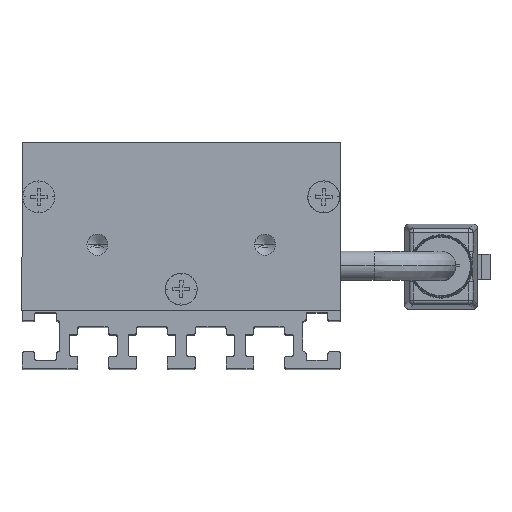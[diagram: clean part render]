
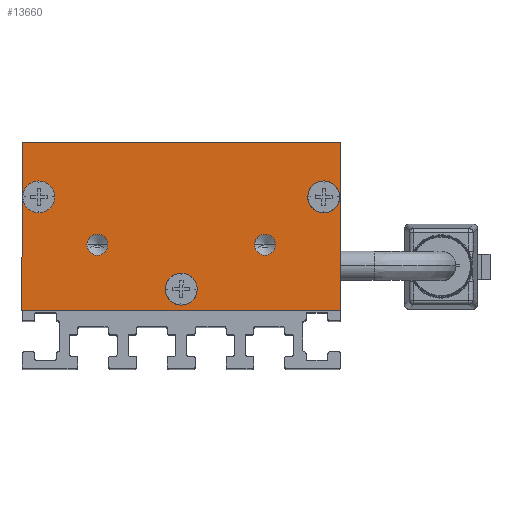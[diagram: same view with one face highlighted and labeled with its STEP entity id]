
A CAD part, top view. The second image highlights one B-rep face of the part: STEP entity #13660.
In plain terms, the highlighted planar face has unit normal (0, 0, 1) as drawn and (0, 0, -1) by its records, which use the part's own axes.
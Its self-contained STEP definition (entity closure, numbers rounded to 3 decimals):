
#139 = CIRCLE ( 'NONE', #4860, 1.25 ) ;
#245 = EDGE_CURVE ( 'NONE', #15904, #614, #9876, .T. ) ;
#333 = CARTESIAN_POINT ( 'NONE',  ( 15.1, 13.5, -2.5 ) ) ;
#481 = AXIS2_PLACEMENT_3D ( 'NONE', #4285, #4477, #10247 ) ;
#509 = FACE_BOUND ( 'NONE', #14867, .T. ) ;
#614 = VERTEX_POINT ( 'NONE', #14649 ) ;
#643 = EDGE_CURVE ( 'NONE', #12553, #6620, #1573, .T. ) ;
#924 = AXIS2_PLACEMENT_3D ( 'NONE', #11146, #18577, #18678 ) ;
#960 = DIRECTION ( 'NONE',  ( 0., 0., -1. ) ) ;
#1046 = ORIENTED_EDGE ( 'NONE', *, *, #2632, .F. ) ;
#1243 = VERTEX_POINT ( 'NONE', #15943 ) ;
#1346 = CARTESIAN_POINT ( 'NONE',  ( -18.9, 13.5, -2.5 ) ) ;
#1434 = DIRECTION ( 'NONE',  ( 0., 0., -1. ) ) ;
#1450 = LINE ( 'NONE', #19371, #11894 ) ;
#1470 = VERTEX_POINT ( 'NONE', #5738 ) ;
#1573 = LINE ( 'NONE', #5195, #8626 ) ;
#2161 = ORIENTED_EDGE ( 'NONE', *, *, #16526, .F. ) ;
#2246 = EDGE_LOOP ( 'NONE', ( #3820, #4245 ) ) ;
#2278 = VECTOR ( 'NONE', #13888, 1000. ) ;
#2371 = CARTESIAN_POINT ( 'NONE',  ( 17., 13.5, -2.5 ) ) ;
#2632 = EDGE_CURVE ( 'NONE', #18636, #1470, #139, .T. ) ;
#2874 = EDGE_CURVE ( 'NONE', #1470, #18636, #14009, .T. ) ;
#2895 = AXIS2_PLACEMENT_3D ( 'NONE', #11451, #960, #12924 ) ;
#2981 = CARTESIAN_POINT ( 'NONE',  ( 10., 7.8, -2.5 ) ) ;
#3135 = VERTEX_POINT ( 'NONE', #12479 ) ;
#3229 = CIRCLE ( 'NONE', #13864, 1.9 ) ;
#3280 = DIRECTION ( 'NONE',  ( 0., 0., -1. ) ) ;
#3376 = FACE_BOUND ( 'NONE', #14679, .T. ) ;
#3549 = DIRECTION ( 'NONE',  ( 0., -1., 0. ) ) ;
#3677 = CARTESIAN_POINT ( 'NONE',  ( 19., 0., -2.5 ) ) ;
#3820 = ORIENTED_EDGE ( 'NONE', *, *, #17819, .F. ) ;
#3922 = DIRECTION ( 'NONE',  ( 0., 0., -1. ) ) ;
#3987 = VERTEX_POINT ( 'NONE', #4989 ) ;
#4037 = DIRECTION ( 'NONE',  ( -1., 0., 0. ) ) ;
#4125 = VERTEX_POINT ( 'NONE', #333 ) ;
#4221 = VECTOR ( 'NONE', #6492, 1000. ) ;
#4245 = ORIENTED_EDGE ( 'NONE', *, *, #18942, .F. ) ;
#4285 = CARTESIAN_POINT ( 'NONE',  ( -17., 13.5, -2.5 ) ) ;
#4477 = DIRECTION ( 'NONE',  ( 0., 0., -1. ) ) ;
#4860 = AXIS2_PLACEMENT_3D ( 'NONE', #14265, #5340, #11326 ) ;
#4989 = CARTESIAN_POINT ( 'NONE',  ( 1.9, 2.5, -2.5 ) ) ;
#5176 = ORIENTED_EDGE ( 'NONE', *, *, #2874, .F. ) ;
#5195 = CARTESIAN_POINT ( 'NONE',  ( -19., 20., -2.5 ) ) ;
#5340 = DIRECTION ( 'NONE',  ( 0., 0., -1. ) ) ;
#5360 = EDGE_CURVE ( 'NONE', #17085, #3987, #3229, .T. ) ;
#5478 = CIRCLE ( 'NONE', #16423, 1.25 ) ;
#5492 = AXIS2_PLACEMENT_3D ( 'NONE', #18151, #15412, #16783 ) ;
#5599 = AXIS2_PLACEMENT_3D ( 'NONE', #6299, #12281, #17066 ) ;
#5662 = CIRCLE ( 'NONE', #18499, 1.9 ) ;
#5698 = CIRCLE ( 'NONE', #2895, 1.9 ) ;
#5738 = CARTESIAN_POINT ( 'NONE',  ( 8.75, 7.8, -2.5 ) ) ;
#5827 = DIRECTION ( 'NONE',  ( 0., 0., -1. ) ) ;
#6299 = CARTESIAN_POINT ( 'NONE',  ( 0., 2.5, -2.5 ) ) ;
#6383 = AXIS2_PLACEMENT_3D ( 'NONE', #9792, #3922, #18897 ) ;
#6492 = DIRECTION ( 'NONE',  ( 1., 0., 0. ) ) ;
#6620 = VERTEX_POINT ( 'NONE', #12325 ) ;
#6731 = CARTESIAN_POINT ( 'NONE',  ( 19., 20., -2.5 ) ) ;
#7515 = DIRECTION ( 'NONE',  ( -1., 0., 0. ) ) ;
#7613 = CARTESIAN_POINT ( 'NONE',  ( -19., 20., -2.5 ) ) ;
#7878 = PLANE ( 'NONE',  #5492 ) ;
#7962 = CARTESIAN_POINT ( 'NONE',  ( -19., 20., -2.5 ) ) ;
#8072 = ORIENTED_EDGE ( 'NONE', *, *, #14429, .F. ) ;
#8626 = VECTOR ( 'NONE', #3549, 1000. ) ;
#8898 = DIRECTION ( 'NONE',  ( 0., 1., 0. ) ) ;
#8994 = ORIENTED_EDGE ( 'NONE', *, *, #12599, .F. ) ;
#9432 = ORIENTED_EDGE ( 'NONE', *, *, #5360, .F. ) ;
#9502 = EDGE_LOOP ( 'NONE', ( #5176, #1046 ) ) ;
#9792 = CARTESIAN_POINT ( 'NONE',  ( -17., 13.5, -2.5 ) ) ;
#9876 = CIRCLE ( 'NONE', #481, 1.9 ) ;
#9988 = ORIENTED_EDGE ( 'NONE', *, *, #13097, .F. ) ;
#10119 = EDGE_CURVE ( 'NONE', #3987, #17085, #13736, .T. ) ;
#10188 = CARTESIAN_POINT ( 'NONE',  ( 11.25, 7.8, -2.5 ) ) ;
#10245 = CARTESIAN_POINT ( 'NONE',  ( -10., 7.8, -2.5 ) ) ;
#10247 = DIRECTION ( 'NONE',  ( -1., 0., 0. ) ) ;
#10646 = CARTESIAN_POINT ( 'NONE',  ( -1.9, 2.5, -2.5 ) ) ;
#10845 = VERTEX_POINT ( 'NONE', #3677 ) ;
#11146 = CARTESIAN_POINT ( 'NONE',  ( -10., 7.8, -2.5 ) ) ;
#11261 = CIRCLE ( 'NONE', #924, 1.25 ) ;
#11308 = EDGE_CURVE ( 'NONE', #614, #15904, #14825, .T. ) ;
#11326 = DIRECTION ( 'NONE',  ( -1., 0., 0. ) ) ;
#11451 = CARTESIAN_POINT ( 'NONE',  ( 17., 13.5, -2.5 ) ) ;
#11883 = ORIENTED_EDGE ( 'NONE', *, *, #10119, .F. ) ;
#11894 = VECTOR ( 'NONE', #8898, 1000. ) ;
#11998 = EDGE_LOOP ( 'NONE', ( #14458, #13014, #2161, #8994 ) ) ;
#12281 = DIRECTION ( 'NONE',  ( 0., 0., -1. ) ) ;
#12325 = CARTESIAN_POINT ( 'NONE',  ( -19., 0., -2.5 ) ) ;
#12479 = CARTESIAN_POINT ( 'NONE',  ( -11.25, 7.8, -2.5 ) ) ;
#12553 = VERTEX_POINT ( 'NONE', #7962 ) ;
#12599 = EDGE_CURVE ( 'NONE', #6620, #10845, #12861, .T. ) ;
#12861 = LINE ( 'NONE', #15501, #4221 ) ;
#12924 = DIRECTION ( 'NONE',  ( -1., 0., 0. ) ) ;
#13014 = ORIENTED_EDGE ( 'NONE', *, *, #19109, .F. ) ;
#13097 = EDGE_CURVE ( 'NONE', #1243, #3135, #5478, .T. ) ;
#13660 = ADVANCED_FACE ( 'NONE', ( #13752, #15313, #509, #18245, #3376, #13854 ), #7878, .F. ) ;
#13736 = CIRCLE ( 'NONE', #5599, 1.9 ) ;
#13752 = FACE_BOUND ( 'NONE', #2246, .T. ) ;
#13753 = DIRECTION ( 'NONE',  ( -1., 0., 0. ) ) ;
#13854 = FACE_OUTER_BOUND ( 'NONE', #11998, .T. ) ;
#13864 = AXIS2_PLACEMENT_3D ( 'NONE', #14870, #1434, #7515 ) ;
#13888 = DIRECTION ( 'NONE',  ( -1., 0., 0. ) ) ;
#14009 = CIRCLE ( 'NONE', #14624, 1.25 ) ;
#14229 = ORIENTED_EDGE ( 'NONE', *, *, #11308, .F. ) ;
#14265 = CARTESIAN_POINT ( 'NONE',  ( 10., 7.8, -2.5 ) ) ;
#14429 = EDGE_CURVE ( 'NONE', #3135, #1243, #11261, .T. ) ;
#14458 = ORIENTED_EDGE ( 'NONE', *, *, #643, .F. ) ;
#14624 = AXIS2_PLACEMENT_3D ( 'NONE', #2981, #3280, #13753 ) ;
#14649 = CARTESIAN_POINT ( 'NONE',  ( -15.1, 13.5, -2.5 ) ) ;
#14679 = EDGE_LOOP ( 'NONE', ( #8072, #9988 ) ) ;
#14825 = CIRCLE ( 'NONE', #6383, 1.9 ) ;
#14867 = EDGE_LOOP ( 'NONE', ( #16522, #14229 ) ) ;
#14870 = CARTESIAN_POINT ( 'NONE',  ( 0., 2.5, -2.5 ) ) ;
#15313 = FACE_BOUND ( 'NONE', #17389, .T. ) ;
#15412 = DIRECTION ( 'NONE',  ( 0., 0., 1. ) ) ;
#15501 = CARTESIAN_POINT ( 'NONE',  ( -19., 0., -2.5 ) ) ;
#15904 = VERTEX_POINT ( 'NONE', #1346 ) ;
#15943 = CARTESIAN_POINT ( 'NONE',  ( -8.75, 7.8, -2.5 ) ) ;
#16369 = CARTESIAN_POINT ( 'NONE',  ( 18.9, 13.5, -2.5 ) ) ;
#16423 = AXIS2_PLACEMENT_3D ( 'NONE', #10245, #5827, #17695 ) ;
#16522 = ORIENTED_EDGE ( 'NONE', *, *, #245, .F. ) ;
#16526 = EDGE_CURVE ( 'NONE', #10845, #19273, #1450, .T. ) ;
#16783 = DIRECTION ( 'NONE',  ( 1., 0., 0. ) ) ;
#16917 = LINE ( 'NONE', #7613, #2278 ) ;
#17059 = DIRECTION ( 'NONE',  ( 0., 0., -1. ) ) ;
#17066 = DIRECTION ( 'NONE',  ( -1., 0., 0. ) ) ;
#17085 = VERTEX_POINT ( 'NONE', #10646 ) ;
#17389 = EDGE_LOOP ( 'NONE', ( #9432, #11883 ) ) ;
#17695 = DIRECTION ( 'NONE',  ( -1., 0., 0. ) ) ;
#17819 = EDGE_CURVE ( 'NONE', #4125, #18112, #5662, .T. ) ;
#18112 = VERTEX_POINT ( 'NONE', #16369 ) ;
#18151 = CARTESIAN_POINT ( 'NONE',  ( 0., 0., -2.5 ) ) ;
#18245 = FACE_BOUND ( 'NONE', #9502, .T. ) ;
#18499 = AXIS2_PLACEMENT_3D ( 'NONE', #2371, #17059, #4037 ) ;
#18577 = DIRECTION ( 'NONE',  ( 0., 0., -1. ) ) ;
#18636 = VERTEX_POINT ( 'NONE', #10188 ) ;
#18678 = DIRECTION ( 'NONE',  ( -1., 0., 0. ) ) ;
#18897 = DIRECTION ( 'NONE',  ( -1., 0., 0. ) ) ;
#18942 = EDGE_CURVE ( 'NONE', #18112, #4125, #5698, .T. ) ;
#19109 = EDGE_CURVE ( 'NONE', #19273, #12553, #16917, .T. ) ;
#19273 = VERTEX_POINT ( 'NONE', #6731 ) ;
#19371 = CARTESIAN_POINT ( 'NONE',  ( 19., 20., -2.5 ) ) ;
